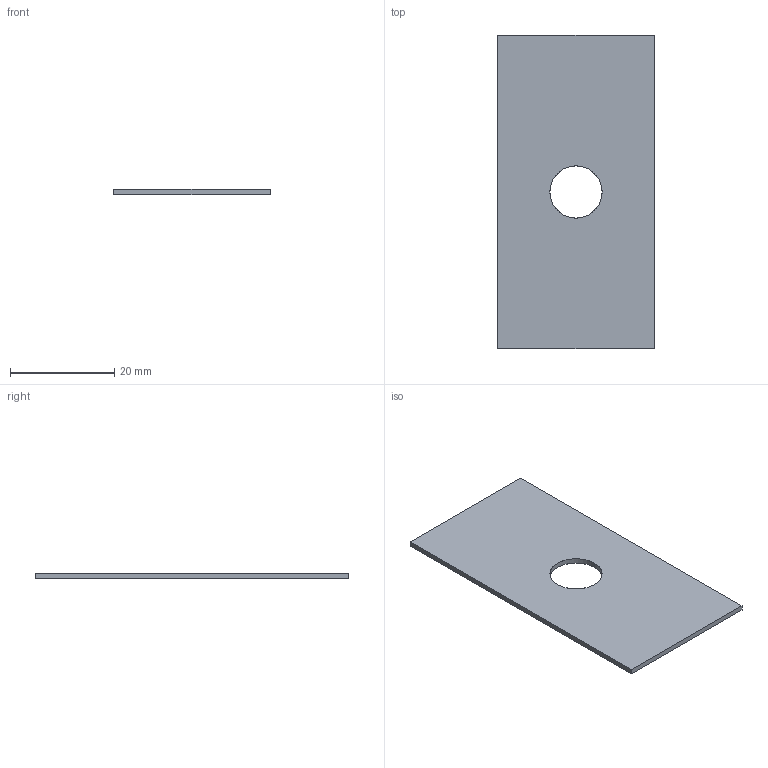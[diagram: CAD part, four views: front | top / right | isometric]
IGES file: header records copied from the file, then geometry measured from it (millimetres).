
Start section: SolidWorks IGES file using analytic representation for surfaces
Global section: file name: C:\Users\Santus\Desktop\Lastra_Foro_PiccoloSpessore.IGS; native system: SolidWorks 2016; preprocessor: SolidWorks 2016; author: Santus; date: 171127.154053; units: millimetre
Bounding box: 30 x 60 x 1 mm (x, y, z)
Surface area: 3654.3 mm2 (no closed solid volume)
Topology: 0 solids, 0 shells, 8 faces, 96 edges, 96 vertices
Faces by surface type: bspline 6, revolution 2
